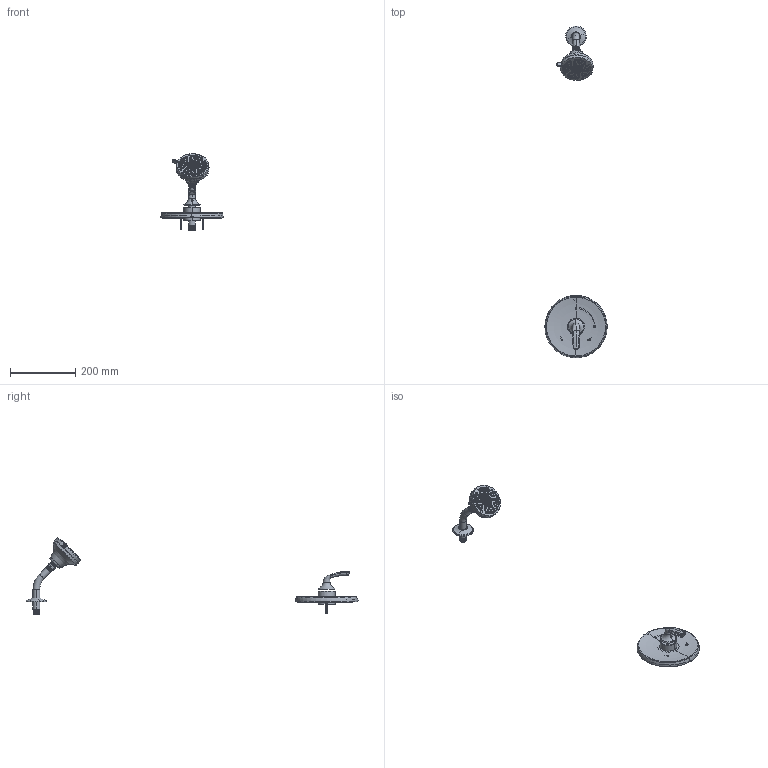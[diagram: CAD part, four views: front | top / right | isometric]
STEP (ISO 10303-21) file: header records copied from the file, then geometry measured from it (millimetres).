
FILE_DESCRIPTION (( 'STEP AP203' ), '1' );
FILE_NAME ('5591.STEP', '2025-01-16T21:53:27', ( '' ), ( '' ), 'SwSTEP 2.0', 'SolidWorks 2023', '' );
FILE_SCHEMA (( 'CONFIG_CONTROL_DESIGN' ));
Length unit declared in the file: inch
Products named in the file (1): 5591
Bounding box: 190.86 x 1016.86 x 234.14 mm (x, y, z)
Surface area: 197257.6 mm2 (no closed solid volume)
Topology: 0 solids, 246 shells, 1169 faces, 4230 edges, 3217 vertices
Faces by surface type: plane 310, cone 282, cylinder 282, bspline 209, torus 67, sphere 19
Entity records: 128869 total; most frequent: CARTESIAN_POINT 96778, ORIENTED_EDGE 6135, DIRECTION 5552, EDGE_CURVE 4225, VERTEX_POINT 3214, AXIS2_PLACEMENT_3D 2165, B_SPLINE_CURVE_WITH_KNOTS 1758, EDGE_LOOP 1452
